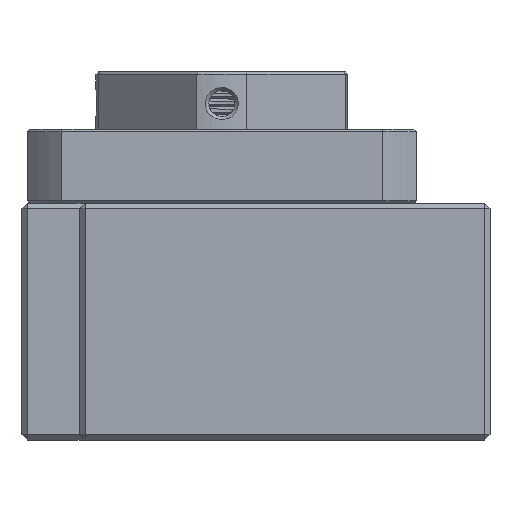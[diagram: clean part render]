
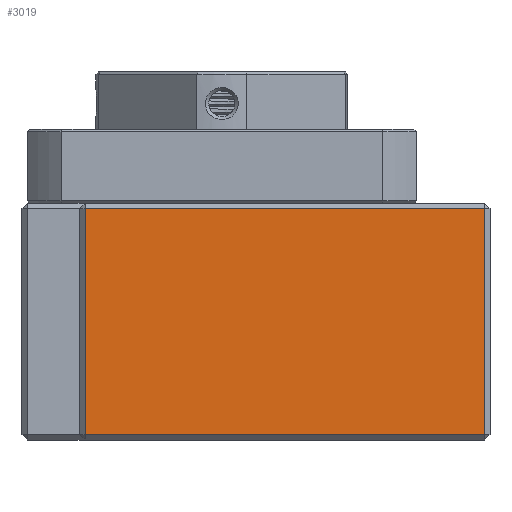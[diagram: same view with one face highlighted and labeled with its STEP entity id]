
A CAD part, left-side view. The second image highlights one B-rep face of the part: STEP entity #3019.
In plain terms, the highlighted planar face has unit normal (-1, 0, 0).
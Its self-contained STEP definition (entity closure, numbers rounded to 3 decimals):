
#3019=ADVANCED_FACE('',(#14497),#14499,.F.);
#14497=FACE_BOUND('',#14498,.T.);
#14498=EDGE_LOOP('',(#15744,#15745,#15746,#15747));
#14499=PLANE('',#14500);
#14500=AXIS2_PLACEMENT_3D('',#14501,#14502,#14503);
#14501=CARTESIAN_POINT('',(-64.,78.,22.5));
#14502=DIRECTION('',(1.,-0.,0.));
#14503=DIRECTION('',(0.,0.,-1.));
#15744=ORIENTED_EDGE('',*,*,#16396,.F.);
#15745=ORIENTED_EDGE('',*,*,#16397,.F.);
#15746=ORIENTED_EDGE('',*,*,#16391,.F.);
#15747=ORIENTED_EDGE('',*,*,#16398,.T.);
#16391=EDGE_CURVE('',#17370,#17367,#17372,.T.);
#16396=EDGE_CURVE('',#17379,#17380,#17381,.T.);
#16397=EDGE_CURVE('',#17367,#17379,#17382,.T.);
#16398=EDGE_CURVE('',#17370,#17380,#17383,.T.);
#17367=VERTEX_POINT('',#32127);
#17370=VERTEX_POINT('',#32134);
#17372=LINE('',#32138,#32139);
#17379=VERTEX_POINT('',#32155);
#17380=VERTEX_POINT('',#32156);
#17381=LINE('',#32157,#32158);
#17382=LINE('',#32160,#32161);
#17383=LINE('',#32163,#32164);
#32127=CARTESIAN_POINT('',(-64.,77.,21.5));
#32134=CARTESIAN_POINT('',(-64.,77.,-21.5));
#32138=CARTESIAN_POINT('',(-64.,77.,-21.5));
#32139=VECTOR('',#32140,1.);
#32140=DIRECTION('',(0.,0.,1.));
#32155=CARTESIAN_POINT('',(-64.,1.,21.5));
#32156=CARTESIAN_POINT('',(-64.,1.,-21.5));
#32157=CARTESIAN_POINT('',(-64.,1.,21.5));
#32158=VECTOR('',#32159,1.);
#32159=DIRECTION('',(0.,0.,-1.));
#32160=CARTESIAN_POINT('',(-64.,77.,21.5));
#32161=VECTOR('',#32162,1.);
#32162=DIRECTION('',(0.,-1.,0.));
#32163=CARTESIAN_POINT('',(-64.,77.,-21.5));
#32164=VECTOR('',#32165,1.);
#32165=DIRECTION('',(0.,-1.,0.));
